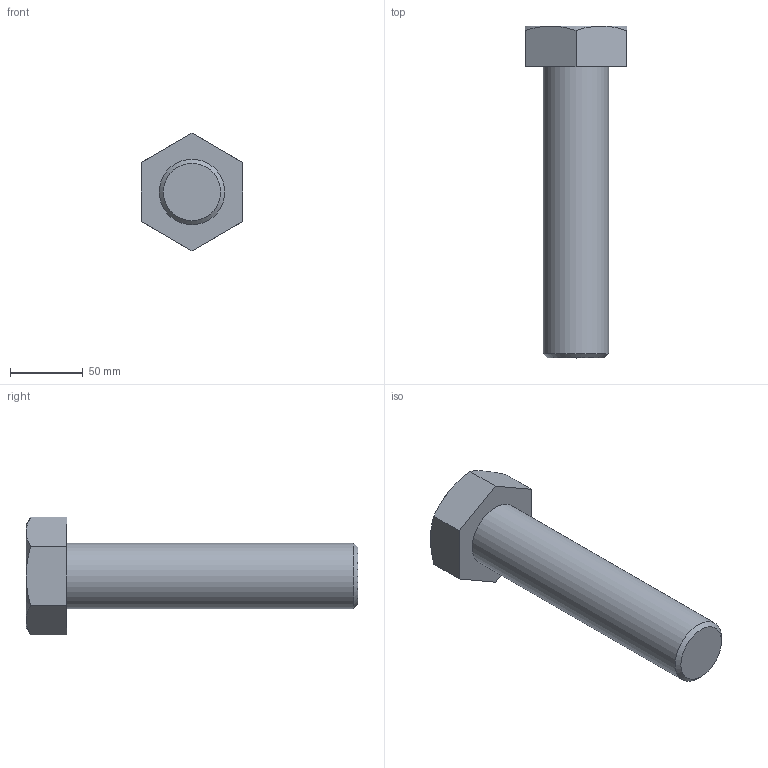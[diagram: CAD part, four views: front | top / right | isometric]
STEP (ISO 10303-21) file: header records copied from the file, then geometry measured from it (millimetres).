
FILE_DESCRIPTION(/* description */ (''),/* implementation_level */ '2;1');
FILE_NAME(/* name */ 'C:\Users\unitec\Documents\Inventor\各種小物\JIS\JIS B 1180 六角ボルト 等級C\hbc45\M45x200.stp',/* time_stamp */ '2015-02-13T14:58:30+09:00',/* author */ ('unitec'),/* organization */ (''),/* preprocessor_version */ 'ST-DEVELOPER v15.2',/* originating_system */ 'Autodesk Inventor 2014',/* authorisation */ '');
FILE_SCHEMA (('AUTOMOTIVE_DESIGN { 1 0 10303 214 3 1 1 }'));
Length unit declared in the file: millimetre
Products named in the file (1): M45x200
Bounding box: 70 x 228 x 80.83 mm (x, y, z)
Volume: 436016.2 mm3; surface area: 43113.7 mm2
Topology: 1 solids, 1 shells, 17 faces, 35 edges, 21 vertices
Faces by surface type: plane 9, cone 7, cylinder 1
Full cylindrical faces by diameter (mm): 45 x1
Entity records: 441 total; most frequent: CARTESIAN_POINT 96, ORIENTED_EDGE 66, DIRECTION 66, EDGE_CURVE 33, AXIS2_PLACEMENT_3D 27, VERTEX_POINT 21, EDGE_LOOP 20, ADVANCED_FACE 17
